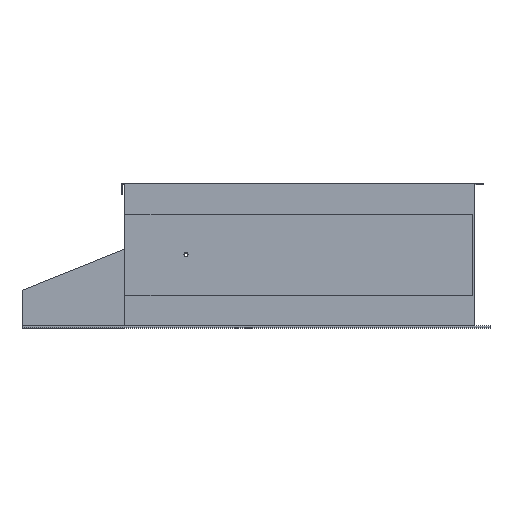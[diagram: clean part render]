
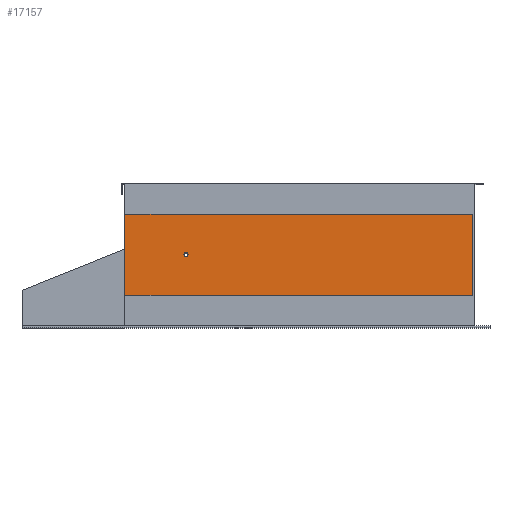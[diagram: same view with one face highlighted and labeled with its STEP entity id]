
A CAD part, top view. The second image highlights one B-rep face of the part: STEP entity #17157.
In plain terms, the highlighted planar face has unit normal (0, 0, 1).
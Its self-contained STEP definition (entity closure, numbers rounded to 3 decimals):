
#709 = VECTOR ( 'NONE', #16862, 1000. ) ;
#5810 = DIRECTION ( 'NONE',  ( 1., 0., 0. ) ) ;
#5921 = LINE ( 'NONE', #14987, #53367 ) ;
#7778 = CIRCLE ( 'NONE', #46781, 5. ) ;
#7798 = CARTESIAN_POINT ( 'NONE',  ( 1107., 79., 375. ) ) ;
#9468 = CIRCLE ( 'NONE', #52810, 5. ) ;
#11643 = DIRECTION ( 'NONE',  ( 0., 0., 1. ) ) ;
#12301 = CARTESIAN_POINT ( 'NONE',  ( 1107., 79., 375. ) ) ;
#12467 = CARTESIAN_POINT ( 'NONE',  ( 1107., 279., 375. ) ) ;
#12905 = LINE ( 'NONE', #15603, #45739 ) ;
#13982 = DIRECTION ( 'NONE',  ( 0., 0., 1. ) ) ;
#14790 = EDGE_LOOP ( 'NONE', ( #44792, #50296, #39320, #16279 ) ) ;
#14979 = LINE ( 'NONE', #50325, #16400 ) ;
#14987 = CARTESIAN_POINT ( 'NONE',  ( 1107., 79., 375. ) ) ;
#15603 = CARTESIAN_POINT ( 'NONE',  ( 253., 79., 375. ) ) ;
#16197 = EDGE_CURVE ( 'NONE', #46914, #20501, #5921, .T. ) ;
#16279 = ORIENTED_EDGE ( 'NONE', *, *, #20747, .T. ) ;
#16400 = VECTOR ( 'NONE', #36280, 1000. ) ;
#16862 = DIRECTION ( 'NONE',  ( 0., 1., 0. ) ) ;
#17157 = ADVANCED_FACE ( 'NONE', ( #53424, #43200 ), #48674, .T. ) ;
#19566 = AXIS2_PLACEMENT_3D ( 'NONE', #53026, #13982, #45202 ) ;
#20397 = EDGE_CURVE ( 'NONE', #20501, #37895, #24878, .T. ) ;
#20501 = VERTEX_POINT ( 'NONE', #7798 ) ;
#20747 = EDGE_CURVE ( 'NONE', #37895, #25576, #14979, .T. ) ;
#21154 = EDGE_CURVE ( 'NONE', #30043, #25231, #7778, .T. ) ;
#22256 = CARTESIAN_POINT ( 'NONE',  ( 408., 180., 375. ) ) ;
#22530 = CARTESIAN_POINT ( 'NONE',  ( 253., 279., 375. ) ) ;
#23695 = DIRECTION ( 'NONE',  ( 0., 0., 1. ) ) ;
#24011 = EDGE_LOOP ( 'NONE', ( #45464, #27430 ) ) ;
#24878 = LINE ( 'NONE', #12301, #709 ) ;
#25231 = VERTEX_POINT ( 'NONE', #46448 ) ;
#25576 = VERTEX_POINT ( 'NONE', #22530 ) ;
#27430 = ORIENTED_EDGE ( 'NONE', *, *, #41145, .F. ) ;
#28602 = EDGE_CURVE ( 'NONE', #25576, #46914, #12905, .T. ) ;
#30043 = VERTEX_POINT ( 'NONE', #22256 ) ;
#36280 = DIRECTION ( 'NONE',  ( -1., 0., 0. ) ) ;
#37895 = VERTEX_POINT ( 'NONE', #12467 ) ;
#38508 = CARTESIAN_POINT ( 'NONE',  ( 403., 180., 375. ) ) ;
#39320 = ORIENTED_EDGE ( 'NONE', *, *, #20397, .T. ) ;
#41145 = EDGE_CURVE ( 'NONE', #25231, #30043, #9468, .T. ) ;
#42954 = DIRECTION ( 'NONE',  ( 1., 0., 0. ) ) ;
#43200 = FACE_OUTER_BOUND ( 'NONE', #14790, .T. ) ;
#44792 = ORIENTED_EDGE ( 'NONE', *, *, #28602, .T. ) ;
#45202 = DIRECTION ( 'NONE',  ( 1., 0., 0. ) ) ;
#45464 = ORIENTED_EDGE ( 'NONE', *, *, #21154, .F. ) ;
#45739 = VECTOR ( 'NONE', #55498, 1000. ) ;
#46448 = CARTESIAN_POINT ( 'NONE',  ( 398., 180., 375. ) ) ;
#46781 = AXIS2_PLACEMENT_3D ( 'NONE', #38508, #11643, #42954 ) ;
#46914 = VERTEX_POINT ( 'NONE', #52056 ) ;
#48674 = PLANE ( 'NONE',  #19566 ) ;
#50217 = CARTESIAN_POINT ( 'NONE',  ( 403., 180., 375. ) ) ;
#50296 = ORIENTED_EDGE ( 'NONE', *, *, #16197, .T. ) ;
#50325 = CARTESIAN_POINT ( 'NONE',  ( 1107., 279., 375. ) ) ;
#52056 = CARTESIAN_POINT ( 'NONE',  ( 253., 79., 375. ) ) ;
#52810 = AXIS2_PLACEMENT_3D ( 'NONE', #50217, #23695, #54567 ) ;
#53026 = CARTESIAN_POINT ( 'NONE',  ( 0., 0., 375. ) ) ;
#53367 = VECTOR ( 'NONE', #5810, 1000. ) ;
#53424 = FACE_BOUND ( 'NONE', #24011, .T. ) ;
#54567 = DIRECTION ( 'NONE',  ( 1., 0., 0. ) ) ;
#55498 = DIRECTION ( 'NONE',  ( 0., -1., 0. ) ) ;
